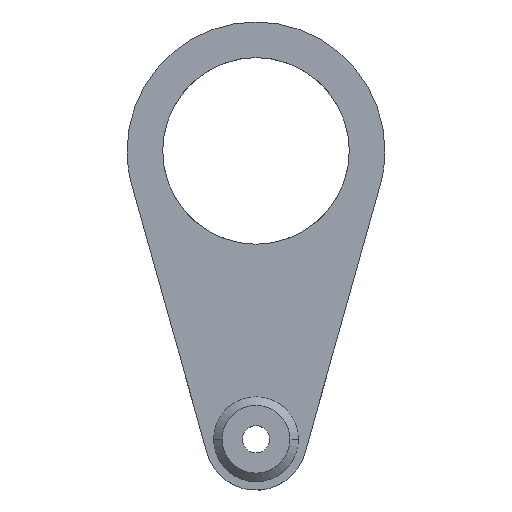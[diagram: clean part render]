
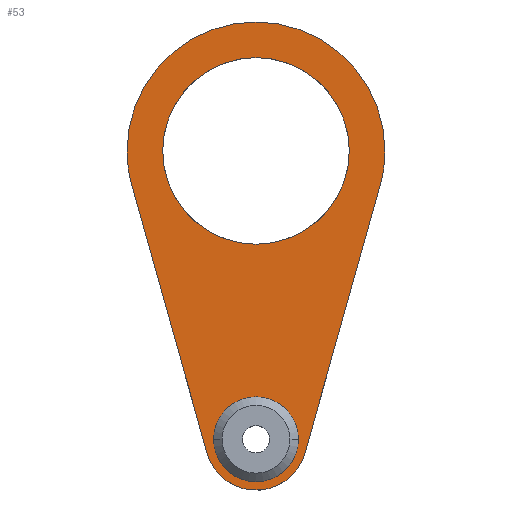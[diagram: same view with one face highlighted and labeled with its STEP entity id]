
A CAD part, top view. The second image highlights one B-rep face of the part: STEP entity #53.
In plain terms, the highlighted planar face has unit normal (0, 0, 1).
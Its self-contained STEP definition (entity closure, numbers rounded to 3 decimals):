
#18 = AXIS2_PLACEMENT_3D ( 'NONE', #1397, #1396, #1395 ) ;
#22 = AXIS2_PLACEMENT_3D ( 'NONE', #1418, #1417, #1416 ) ;
#27 = AXIS2_PLACEMENT_3D ( 'NONE', #1445, #1444, #1443 ) ;
#38 = AXIS2_PLACEMENT_3D ( 'NONE', #1371, #1370, #1369 ) ;
#53 = ADVANCED_FACE ( 'NONE', ( #280, #303, #282 ), #1272, .F. ) ;
#119 = ORIENTED_EDGE ( 'NONE', *, *, #1537, .F. ) ;
#120 = ORIENTED_EDGE ( 'NONE', *, *, #1538, .F. ) ;
#121 = ORIENTED_EDGE ( 'NONE', *, *, #1779, .F. ) ;
#150 = ORIENTED_EDGE ( 'NONE', *, *, #1544, .F. ) ;
#157 = ORIENTED_EDGE ( 'NONE', *, *, #1539, .F. ) ;
#159 = ORIENTED_EDGE ( 'NONE', *, *, #1795, .F. ) ;
#162 = ORIENTED_EDGE ( 'NONE', *, *, #1789, .F. ) ;
#169 = ORIENTED_EDGE ( 'NONE', *, *, #1541, .F. ) ;
#171 = ORIENTED_EDGE ( 'NONE', *, *, #1542, .F. ) ;
#174 = ORIENTED_EDGE ( 'NONE', *, *, #1802, .F. ) ;
#190 = VERTEX_POINT ( 'NONE', #847 ) ;
#199 = VERTEX_POINT ( 'NONE', #835 ) ;
#204 = VERTEX_POINT ( 'NONE', #837 ) ;
#206 = VERTEX_POINT ( 'NONE', #830 ) ;
#210 = VERTEX_POINT ( 'NONE', #827 ) ;
#218 = VERTEX_POINT ( 'NONE', #825 ) ;
#236 = VERTEX_POINT ( 'NONE', #813 ) ;
#240 = VERTEX_POINT ( 'NONE', #806 ) ;
#268 = VERTEX_POINT ( 'NONE', #768 ) ;
#278 = EDGE_LOOP ( 'NONE', ( #171, #169, #162, #121, #157, #120 ) ) ;
#280 = FACE_BOUND ( 'NONE', #479, .T. ) ;
#282 = FACE_BOUND ( 'NONE', #473, .T. ) ;
#303 = FACE_OUTER_BOUND ( 'NONE', #278, .T. ) ;
#334 = VERTEX_POINT ( 'NONE', #746 ) ;
#473 = EDGE_LOOP ( 'NONE', ( #119, #174 ) ) ;
#479 = EDGE_LOOP ( 'NONE', ( #159, #150 ) ) ;
#636 = DIRECTION ( 'NONE',  ( -1., 0., 0. ) ) ;
#637 = DIRECTION ( 'NONE',  ( 0., 0., 1. ) ) ;
#638 = CARTESIAN_POINT ( 'NONE',  ( 0., 0., -29. ) ) ;
#655 = DIRECTION ( 'NONE',  ( -1., 0., 0. ) ) ;
#658 = DIRECTION ( 'NONE',  ( 0., 0., -1. ) ) ;
#659 = CARTESIAN_POINT ( 'NONE',  ( 0., 0., -29. ) ) ;
#666 = DIRECTION ( 'NONE',  ( -1., 0., 0. ) ) ;
#669 = DIRECTION ( 'NONE',  ( 0., 0., -1. ) ) ;
#670 = CARTESIAN_POINT ( 'NONE',  ( 0., -85., -29. ) ) ;
#671 = DIRECTION ( 'NONE',  ( -0.271, -0.963, 0. ) ) ;
#672 = CARTESIAN_POINT ( 'NONE',  ( 36.582, -10.282, -29. ) ) ;
#673 = DIRECTION ( 'NONE',  ( -1., 0., 0. ) ) ;
#674 = DIRECTION ( 'NONE',  ( 0., 0., 1. ) ) ;
#675 = CARTESIAN_POINT ( 'NONE',  ( 0., -85., -29. ) ) ;
#676 = DIRECTION ( 'NONE',  ( -0.271, 0.963, 0. ) ) ;
#677 = CARTESIAN_POINT ( 'NONE',  ( -14.44, -89.059, -29. ) ) ;
#746 = CARTESIAN_POINT ( 'NONE',  ( 12.5, -85., -29. ) ) ;
#768 = CARTESIAN_POINT ( 'NONE',  ( -12.5, -85., -29. ) ) ;
#782 = CIRCLE ( 'NONE', #38, 12.5 ) ;
#806 = CARTESIAN_POINT ( 'NONE',  ( -14.44, -89.059, -29. ) ) ;
#813 = CARTESIAN_POINT ( 'NONE',  ( 14.44, -89.059, -29. ) ) ;
#825 = CARTESIAN_POINT ( 'NONE',  ( 36.582, -10.282, -29. ) ) ;
#827 = CARTESIAN_POINT ( 'NONE',  ( 38., 0., -29. ) ) ;
#830 = CARTESIAN_POINT ( 'NONE',  ( 27.5, 0., -29. ) ) ;
#835 = CARTESIAN_POINT ( 'NONE',  ( -27.5, 0., -29. ) ) ;
#837 = CARTESIAN_POINT ( 'NONE',  ( -38., 0., -29. ) ) ;
#847 = CARTESIAN_POINT ( 'NONE',  ( -36.582, -10.282, -29. ) ) ;
#1180 = DIRECTION ( 'NONE',  ( -1., 0., 0. ) ) ;
#1239 = DIRECTION ( 'NONE',  ( 0., 0., -1. ) ) ;
#1272 = PLANE ( 'NONE',  #1487 ) ;
#1276 = CARTESIAN_POINT ( 'NONE',  ( 0., 0., -29. ) ) ;
#1369 = DIRECTION ( 'NONE',  ( -1., 0., 0. ) ) ;
#1370 = DIRECTION ( 'NONE',  ( 0., 0., 1. ) ) ;
#1371 = CARTESIAN_POINT ( 'NONE',  ( 0., -85., -29. ) ) ;
#1395 = DIRECTION ( 'NONE',  ( -1., 0., 0. ) ) ;
#1396 = DIRECTION ( 'NONE',  ( 0., 0., 1. ) ) ;
#1397 = CARTESIAN_POINT ( 'NONE',  ( 0., 0., -29. ) ) ;
#1416 = DIRECTION ( 'NONE',  ( -1., 0., 0. ) ) ;
#1417 = DIRECTION ( 'NONE',  ( 0., 0., -1. ) ) ;
#1418 = CARTESIAN_POINT ( 'NONE',  ( 0., 0., -29. ) ) ;
#1443 = DIRECTION ( 'NONE',  ( -1., 0., 0. ) ) ;
#1444 = DIRECTION ( 'NONE',  ( 0., 0., -1. ) ) ;
#1445 = CARTESIAN_POINT ( 'NONE',  ( 0., 0., -29. ) ) ;
#1487 = AXIS2_PLACEMENT_3D ( 'NONE', #1276, #1239, #1180 ) ;
#1537 = EDGE_CURVE ( 'NONE', #268, #334, #1961, .T. ) ;
#1538 = EDGE_CURVE ( 'NONE', #236, #240, #1928, .T. ) ;
#1539 = EDGE_CURVE ( 'NONE', #240, #190, #1933, .T. ) ;
#1541 = EDGE_CURVE ( 'NONE', #210, #218, #1957, .T. ) ;
#1542 = EDGE_CURVE ( 'NONE', #218, #236, #1934, .T. ) ;
#1544 = EDGE_CURVE ( 'NONE', #206, #199, #1893, .T. ) ;
#1606 = AXIS2_PLACEMENT_3D ( 'NONE', #638, #637, #636 ) ;
#1607 = AXIS2_PLACEMENT_3D ( 'NONE', #659, #658, #655 ) ;
#1608 = AXIS2_PLACEMENT_3D ( 'NONE', #670, #669, #666 ) ;
#1609 = AXIS2_PLACEMENT_3D ( 'NONE', #675, #674, #673 ) ;
#1779 = EDGE_CURVE ( 'NONE', #190, #204, #1952, .T. ) ;
#1789 = EDGE_CURVE ( 'NONE', #204, #210, #1917, .T. ) ;
#1795 = EDGE_CURVE ( 'NONE', #199, #206, #1944, .T. ) ;
#1802 = EDGE_CURVE ( 'NONE', #334, #268, #782, .T. ) ;
#1893 = CIRCLE ( 'NONE', #1606, 27.5 ) ;
#1894 = VECTOR ( 'NONE', #671, 1000. ) ;
#1917 = CIRCLE ( 'NONE', #22, 38. ) ;
#1928 = CIRCLE ( 'NONE', #1608, 15. ) ;
#1931 = VECTOR ( 'NONE', #676, 1000. ) ;
#1933 = LINE ( 'NONE', #677, #1931 ) ;
#1934 = LINE ( 'NONE', #672, #1894 ) ;
#1944 = CIRCLE ( 'NONE', #18, 27.5 ) ;
#1952 = CIRCLE ( 'NONE', #27, 38. ) ;
#1957 = CIRCLE ( 'NONE', #1607, 38. ) ;
#1961 = CIRCLE ( 'NONE', #1609, 12.5 ) ;
